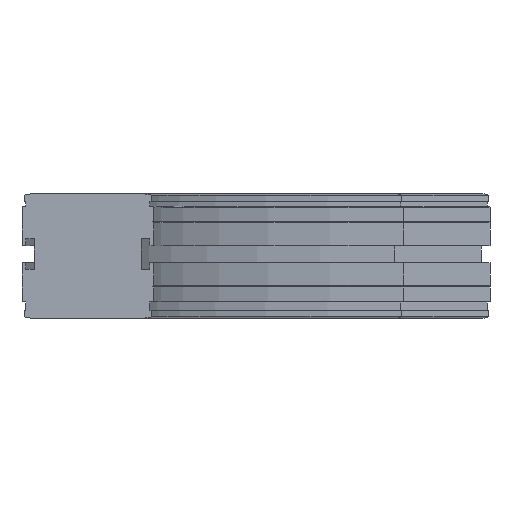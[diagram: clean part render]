
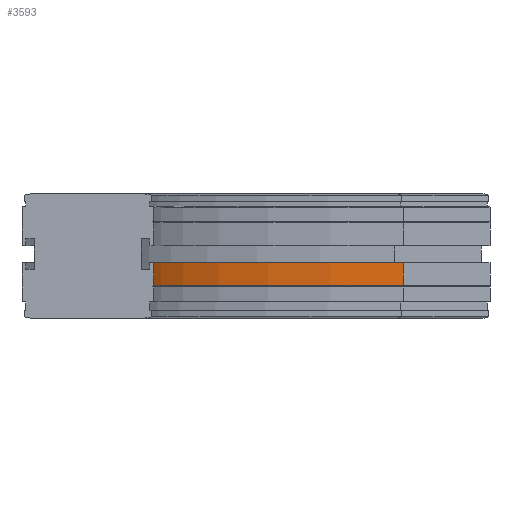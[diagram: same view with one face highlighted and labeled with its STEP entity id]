
A CAD part, left-side view. The second image highlights one B-rep face of the part: STEP entity #3593.
In plain terms, the highlighted cylindrical face has radius 557 mm (diameter 1114 mm), a partial arc.
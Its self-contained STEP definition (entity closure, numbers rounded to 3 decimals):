
#2261=CARTESIAN_POINT('',(473.858,-206.142,-60.));
#2262=VERTEX_POINT('',#2261);
#2292=CARTESIAN_POINT('',(473.858,-206.142,-45.));
#2293=VERTEX_POINT('',#2292);
#2300=CARTESIAN_POINT('',(473.858,-206.142,-60.));
#2301=DIRECTION('',(0.0,0.0,1.0));
#2302=VECTOR('',#2301,15.0);
#2303=LINE('',#2300,#2302);
#2304=EDGE_CURVE('',#2262,#2293,#2303,.T.);
#3550=CARTESIAN_POINT('',(80.0,-43.0,-60.));
#3551=VERTEX_POINT('',#3550);
#3552=CARTESIAN_POINT('',(80.0,-600.0,-60.));
#3553=DIRECTION('',(0.0,0.0,-1.));
#3554=DIRECTION('',(-0.707,-0.707,0.0));
#3555=AXIS2_PLACEMENT_3D('',#3552,#3553,#3554);
#3556=CIRCLE('',#3555,557.0);
#3557=EDGE_CURVE('',#3551,#2262,#3556,.T.);
#3569=CARTESIAN_POINT('',(80.0,-600.0,-52.5));
#3570=DIRECTION('',(0.0,0.0,-1.0));
#3571=DIRECTION('',(-0.707,-0.707,0.0));
#3572=AXIS2_PLACEMENT_3D('',#3569,#3570,#3571);
#3573=CYLINDRICAL_SURFACE('',#3572,557.);
#3574=ORIENTED_EDGE('',*,*,#2304,.T.);
#3575=CARTESIAN_POINT('',(80.0,-43.0,-45.));
#3576=VERTEX_POINT('',#3575);
#3577=CARTESIAN_POINT('',(80.0,-600.0,-45.));
#3578=DIRECTION('',(0.0,0.0,-1.));
#3579=DIRECTION('',(-0.707,-0.707,0.0));
#3580=AXIS2_PLACEMENT_3D('',#3577,#3578,#3579);
#3581=CIRCLE('',#3580,557.0);
#3582=EDGE_CURVE('',#3576,#2293,#3581,.T.);
#3583=ORIENTED_EDGE('',*,*,#3582,.F.);
#3584=CARTESIAN_POINT('',(80.0,-43.0,-60.));
#3585=DIRECTION('',(0.0,0.0,1.0));
#3586=VECTOR('',#3585,15.0);
#3587=LINE('',#3584,#3586);
#3588=EDGE_CURVE('',#3551,#3576,#3587,.T.);
#3589=ORIENTED_EDGE('',*,*,#3588,.F.);
#3590=ORIENTED_EDGE('',*,*,#3557,.T.);
#3591=EDGE_LOOP('',(#3574,#3583,#3589,#3590));
#3592=FACE_OUTER_BOUND('',#3591,.T.);
#3593=ADVANCED_FACE('',(#3592),#3573,.F.);
